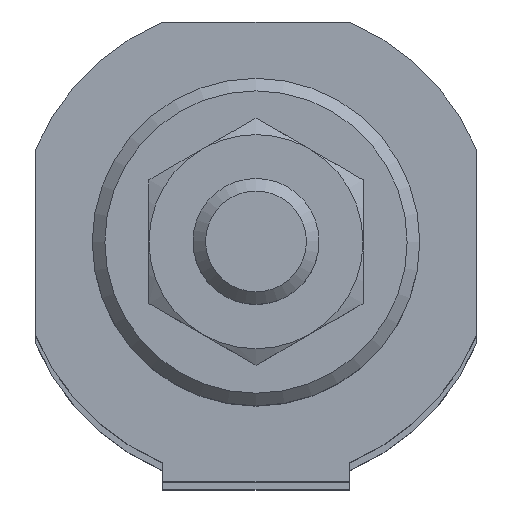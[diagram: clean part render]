
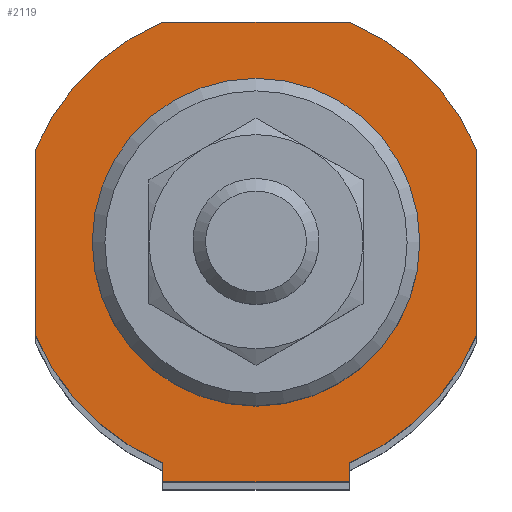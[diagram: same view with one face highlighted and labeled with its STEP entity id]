
A CAD part, top view. The second image highlights one B-rep face of the part: STEP entity #2119.
In plain terms, the highlighted planar face has unit normal (0, 0, 1).
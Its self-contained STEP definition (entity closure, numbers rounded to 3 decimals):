
#1123=CARTESIAN_POINT('',(7.399,-19.0,398.0));
#1124=VERTEX_POINT('',#1123);
#1125=CARTESIAN_POINT('',(-7.399,-19.0,398.0));
#1126=VERTEX_POINT('',#1125);
#1127=CARTESIAN_POINT('',(7.399,-19.0,398.0));
#1128=DIRECTION('',(-1.0,0.0,0.0));
#1129=VECTOR('',#1128,14.799);
#1130=LINE('',#1127,#1129);
#1131=EDGE_CURVE('',#1124,#1126,#1130,.T.);
#1545=CARTESIAN_POINT('',(-7.399,-17.5,398.0));
#1546=VERTEX_POINT('',#1545);
#1560=CARTESIAN_POINT('',(-7.399,-17.5,398.0));
#1561=DIRECTION('',(0.0,-1.0,0.0));
#1562=VECTOR('',#1561,1.5);
#1563=LINE('',#1560,#1562);
#1564=EDGE_CURVE('',#1546,#1126,#1563,.T.);
#1576=CARTESIAN_POINT('',(7.399,-17.5,398.0));
#1577=VERTEX_POINT('',#1576);
#1584=CARTESIAN_POINT('',(7.399,-17.5,398.0));
#1585=DIRECTION('',(0.0,-1.0,0.0));
#1586=VECTOR('',#1585,1.5);
#1587=LINE('',#1584,#1586);
#1588=EDGE_CURVE('',#1577,#1124,#1587,.T.);
#1801=CARTESIAN_POINT('',(13.0,0.,398.0));
#1802=VERTEX_POINT('',#1801);
#1803=CARTESIAN_POINT('',(0.,0.,398.0));
#1804=DIRECTION('',(0.0,0.0,-1.0));
#1805=DIRECTION('',(-1.0,0.0,0.0));
#1806=AXIS2_PLACEMENT_3D('',#1803,#1804,#1805);
#1807=CIRCLE('',#1806,13.0);
#1808=EDGE_CURVE('',#1802,#1802,#1807,.T.);
#2013=CARTESIAN_POINT('',(-17.5,-7.399,398.0));
#2014=VERTEX_POINT('',#2013);
#2015=CARTESIAN_POINT('',(-17.5,7.399,398.0));
#2016=VERTEX_POINT('',#2015);
#2017=CARTESIAN_POINT('',(-17.5,-7.399,398.0));
#2018=DIRECTION('',(0.0,1.0,0.0));
#2019=VECTOR('',#2018,14.799);
#2020=LINE('',#2017,#2019);
#2021=EDGE_CURVE('',#2014,#2016,#2020,.T.);
#2045=CARTESIAN_POINT('',(-7.399,17.5,398.0));
#2046=VERTEX_POINT('',#2045);
#2047=CARTESIAN_POINT('',(0.0,0.0,398.));
#2048=DIRECTION('',(0.0,0.0,-1.0));
#2049=DIRECTION('',(-0.389,0.921,0.0));
#2050=AXIS2_PLACEMENT_3D('',#2047,#2048,#2049);
#2051=CIRCLE('',#2050,19.0);
#2052=EDGE_CURVE('',#2016,#2046,#2051,.T.);
#2065=CARTESIAN_POINT('',(-11.374,11.374,398.0));
#2066=DIRECTION('',(0.0,0.0,1.0));
#2067=DIRECTION('',(1.0,0.0,0.0));
#2068=AXIS2_PLACEMENT_3D('',#2065,#2066,#2067);
#2069=PLANE('',#2068);
#2070=CARTESIAN_POINT('',(7.399,17.5,398.));
#2071=VERTEX_POINT('',#2070);
#2072=CARTESIAN_POINT('',(-7.399,17.5,398.0));
#2073=DIRECTION('',(1.0,0.0,0.0));
#2074=VECTOR('',#2073,14.799);
#2075=LINE('',#2072,#2074);
#2076=EDGE_CURVE('',#2046,#2071,#2075,.T.);
#2077=ORIENTED_EDGE('',*,*,#2076,.F.);
#2078=ORIENTED_EDGE('',*,*,#2052,.F.);
#2079=ORIENTED_EDGE('',*,*,#2021,.F.);
#2080=CARTESIAN_POINT('',(0.0,0.0,398.));
#2081=DIRECTION('',(0.0,0.0,-1.0));
#2082=DIRECTION('',(-0.921,-0.389,0.0));
#2083=AXIS2_PLACEMENT_3D('',#2080,#2081,#2082);
#2084=CIRCLE('',#2083,19.0);
#2085=EDGE_CURVE('',#1546,#2014,#2084,.T.);
#2086=ORIENTED_EDGE('',*,*,#2085,.F.);
#2087=ORIENTED_EDGE('',*,*,#1564,.T.);
#2088=ORIENTED_EDGE('',*,*,#1131,.F.);
#2089=ORIENTED_EDGE('',*,*,#1588,.F.);
#2090=CARTESIAN_POINT('',(17.5,-7.399,398.0));
#2091=VERTEX_POINT('',#2090);
#2092=CARTESIAN_POINT('',(0.0,0.0,398.));
#2093=DIRECTION('',(0.0,0.0,-1.0));
#2094=DIRECTION('',(0.389,-0.921,0.0));
#2095=AXIS2_PLACEMENT_3D('',#2092,#2093,#2094);
#2096=CIRCLE('',#2095,19.0);
#2097=EDGE_CURVE('',#2091,#1577,#2096,.T.);
#2098=ORIENTED_EDGE('',*,*,#2097,.F.);
#2099=CARTESIAN_POINT('',(17.5,7.399,398.));
#2100=VERTEX_POINT('',#2099);
#2101=CARTESIAN_POINT('',(17.5,7.399,398.));
#2102=DIRECTION('',(0.0,-1.0,0.0));
#2103=VECTOR('',#2102,14.799);
#2104=LINE('',#2101,#2103);
#2105=EDGE_CURVE('',#2100,#2091,#2104,.T.);
#2106=ORIENTED_EDGE('',*,*,#2105,.F.);
#2107=CARTESIAN_POINT('',(0.0,0.0,398.));
#2108=DIRECTION('',(0.0,0.0,-1.0));
#2109=DIRECTION('',(0.921,0.389,0.0));
#2110=AXIS2_PLACEMENT_3D('',#2107,#2108,#2109);
#2111=CIRCLE('',#2110,19.0);
#2112=EDGE_CURVE('',#2071,#2100,#2111,.T.);
#2113=ORIENTED_EDGE('',*,*,#2112,.F.);
#2114=EDGE_LOOP('',(#2077,#2078,#2079,#2086,#2087,#2088,#2089,#2098,#2106,#2113));
#2115=FACE_OUTER_BOUND('',#2114,.T.);
#2116=ORIENTED_EDGE('',*,*,#1808,.T.);
#2117=EDGE_LOOP('',(#2116));
#2118=FACE_BOUND('',#2117,.T.);
#2119=ADVANCED_FACE('',(#2115,#2118),#2069,.T.);
